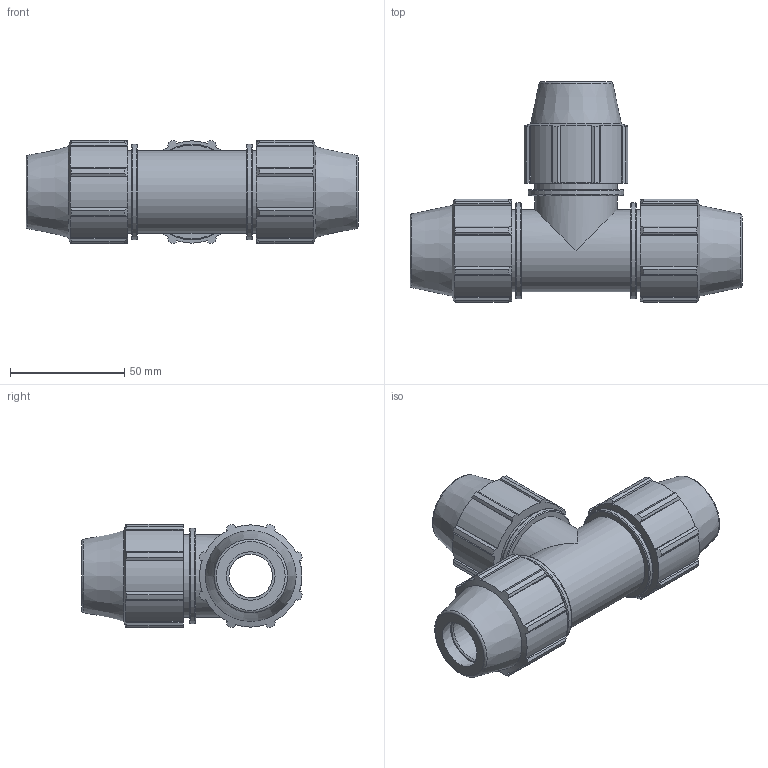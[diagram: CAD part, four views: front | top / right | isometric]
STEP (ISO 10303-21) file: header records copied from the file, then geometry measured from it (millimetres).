
FILE_DESCRIPTION(/* description */ ('PLASSON TEE 1/2'''' - 1/2'''' - 1/2'''''),/* implementation_level */ '2;1');
FILE_NAME(/* name */ 'C:\Dropbox\KIMPROJECTS-Inventor 2019\99-16-3568-Processing Inch\ASTM Compression 2021\0704M0\0704M0050.ipt.stp',/* time_stamp */ '2021-08-26T12:31:18+03:00',/* author */ ('KIM'),/* organization */ (''),/* preprocessor_version */ 'ST-DEVELOPER v17.2',/* originating_system */ 'Autodesk Inventor 2019',/* authorisation */ '');
FILE_SCHEMA (('AUTOMOTIVE_DESIGN { 1 0 10303 214 3 1 1 }'));
Length unit declared in the file: inch
Products named in the file (1): 0704M0050
Bounding box: 145.03 x 96.5 x 45.17 mm (x, y, z)
Volume: 182142.7 mm3; surface area: 45769.4 mm2
Topology: 1 solids, 1 shells, 212 faces, 626 edges, 430 vertices
Faces by surface type: plane 114, cylinder 61, cone 28, torus 9
Full cylindrical faces by diameter (mm): 19.08 x2, 21.2 x3, 36.005 x5, 41.765 x3
Entity records: 7404 total; most frequent: CARTESIAN_POINT 1429, ORIENTED_EDGE 1252, DIRECTION 1203, EDGE_CURVE 626, AXIS2_PLACEMENT_3D 444, VERTEX_POINT 430, LINE 315, VECTOR 315
